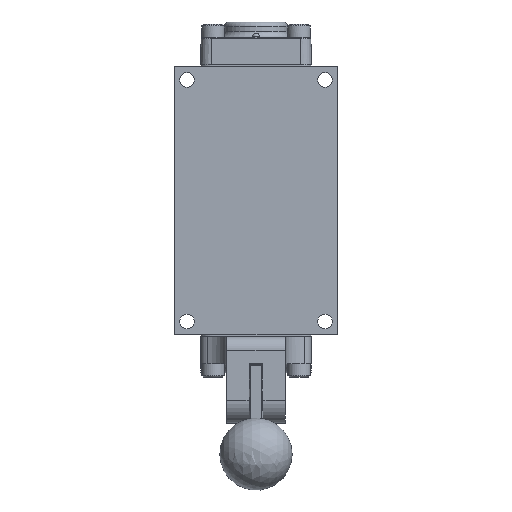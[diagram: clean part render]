
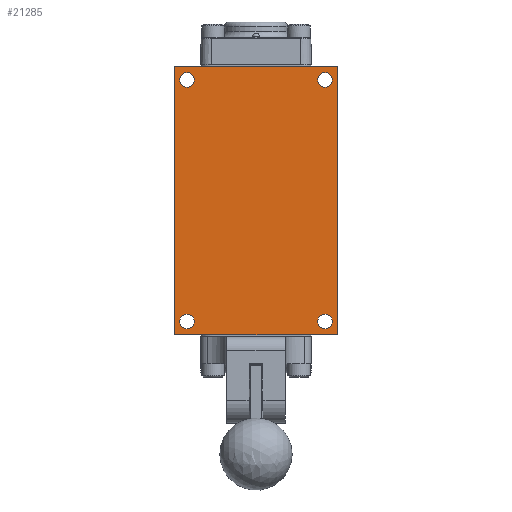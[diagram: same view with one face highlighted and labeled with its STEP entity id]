
A CAD part, front view. The second image highlights one B-rep face of the part: STEP entity #21285.
In plain terms, the highlighted planar face has unit normal (0, -1, 0).
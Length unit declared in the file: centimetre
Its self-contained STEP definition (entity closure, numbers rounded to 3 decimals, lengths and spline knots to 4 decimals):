
#588=FACE_BOUND('',#3787,.T.);
#589=FACE_BOUND('',#3788,.T.);
#590=FACE_BOUND('',#3789,.T.);
#591=FACE_BOUND('',#3790,.T.);
#869=PLANE('',#22622);
#1358=CIRCLE('',#22590,0.2578);
#1359=CIRCLE('',#22592,0.2578);
#1360=CIRCLE('',#22594,0.2578);
#1361=CIRCLE('',#22596,0.2578);
#2495=FACE_OUTER_BOUND('',#3786,.T.);
#3786=EDGE_LOOP('',(#15159,#15160,#15161,#15162));
#3787=EDGE_LOOP('',(#15163));
#3788=EDGE_LOOP('',(#15164));
#3789=EDGE_LOOP('',(#15165));
#3790=EDGE_LOOP('',(#15166));
#5360=LINE('',#30216,#6933);
#5370=LINE('',#30252,#6943);
#5588=LINE('',#31210,#7161);
#5830=LINE('',#32634,#7403);
#6933=VECTOR('',#24361,1.);
#6943=VECTOR('',#24389,1.);
#7161=VECTOR('',#24781,1.);
#7403=VECTOR('',#25173,1.);
#8513=VERTEX_POINT('',#30213);
#8514=VERTEX_POINT('',#30215);
#8530=VERTEX_POINT('',#30249);
#8531=VERTEX_POINT('',#30251);
#9057=VERTEX_POINT('',#33438);
#9058=VERTEX_POINT('',#33442);
#9059=VERTEX_POINT('',#33446);
#9060=VERTEX_POINT('',#33450);
#10470=EDGE_CURVE('',#8513,#8514,#5360,.T.);
#10487=EDGE_CURVE('',#8530,#8531,#5370,.T.);
#10769=EDGE_CURVE('',#8514,#8530,#5588,.T.);
#11105=EDGE_CURVE('',#8531,#8513,#5830,.T.);
#11277=EDGE_CURVE('',#9057,#9057,#1358,.T.);
#11279=EDGE_CURVE('',#9058,#9058,#1359,.T.);
#11281=EDGE_CURVE('',#9059,#9059,#1360,.T.);
#11283=EDGE_CURVE('',#9060,#9060,#1361,.T.);
#15159=ORIENTED_EDGE('',*,*,#10769,.F.);
#15160=ORIENTED_EDGE('',*,*,#10470,.F.);
#15161=ORIENTED_EDGE('',*,*,#11105,.F.);
#15162=ORIENTED_EDGE('',*,*,#10487,.F.);
#15163=ORIENTED_EDGE('',*,*,#11277,.T.);
#15164=ORIENTED_EDGE('',*,*,#11279,.T.);
#15165=ORIENTED_EDGE('',*,*,#11281,.T.);
#15166=ORIENTED_EDGE('',*,*,#11283,.T.);
#21285=ADVANCED_FACE('',(#2495,#588,#589,#590,#591),#869,.F.);
#22590=AXIS2_PLACEMENT_3D('',#33440,#25537,#25538);
#22592=AXIS2_PLACEMENT_3D('',#33444,#25542,#25543);
#22594=AXIS2_PLACEMENT_3D('',#33448,#25547,#25548);
#22596=AXIS2_PLACEMENT_3D('',#33452,#25552,#25553);
#22622=AXIS2_PLACEMENT_3D('',#33503,#25619,#25620);
#24361=DIRECTION('',(-1.,0.,0.));
#24389=DIRECTION('',(1.,0.,0.));
#24781=DIRECTION('',(0.,0.,1.));
#25173=DIRECTION('',(0.,0.,-1.));
#25537=DIRECTION('center_axis',(0.,1.,0.));
#25538=DIRECTION('ref_axis',(-1.,0.,0.));
#25542=DIRECTION('center_axis',(0.,1.,0.));
#25543=DIRECTION('ref_axis',(-1.,0.,0.));
#25547=DIRECTION('center_axis',(0.,1.,0.));
#25548=DIRECTION('ref_axis',(-1.,0.,0.));
#25552=DIRECTION('center_axis',(0.,1.,0.));
#25553=DIRECTION('ref_axis',(-1.,0.,0.));
#25619=DIRECTION('center_axis',(0.,1.,0.));
#25620=DIRECTION('ref_axis',(0.,0.,1.));
#30213=CARTESIAN_POINT('',(2.8575,-1.6358,-4.7104));
#30215=CARTESIAN_POINT('',(-2.8575,-1.6358,-4.7104));
#30216=CARTESIAN_POINT('',(2.8575,-1.6358,-4.7104));
#30249=CARTESIAN_POINT('',(-2.8575,-1.6358,4.7104));
#30251=CARTESIAN_POINT('',(2.8575,-1.6358,4.7104));
#30252=CARTESIAN_POINT('',(-2.8575,-1.6358,4.7104));
#31210=CARTESIAN_POINT('',(-2.8575,-1.6358,-4.7104));
#32634=CARTESIAN_POINT('',(2.8575,-1.6358,4.7104));
#33438=CARTESIAN_POINT('',(-2.1628,-1.6358,-4.2469));
#33440=CARTESIAN_POINT('Origin',(-2.4206,-1.6358,-4.2469));
#33442=CARTESIAN_POINT('',(-2.1628,-1.6358,4.2469));
#33444=CARTESIAN_POINT('Origin',(-2.4206,-1.6358,4.2469));
#33446=CARTESIAN_POINT('',(2.6784,-1.6358,-4.2469));
#33448=CARTESIAN_POINT('Origin',(2.4206,-1.6358,-4.2469));
#33450=CARTESIAN_POINT('',(2.6784,-1.6358,4.2469));
#33452=CARTESIAN_POINT('Origin',(2.4206,-1.6358,4.2469));
#33503=CARTESIAN_POINT('Origin',(0.,-1.6358,0.));
